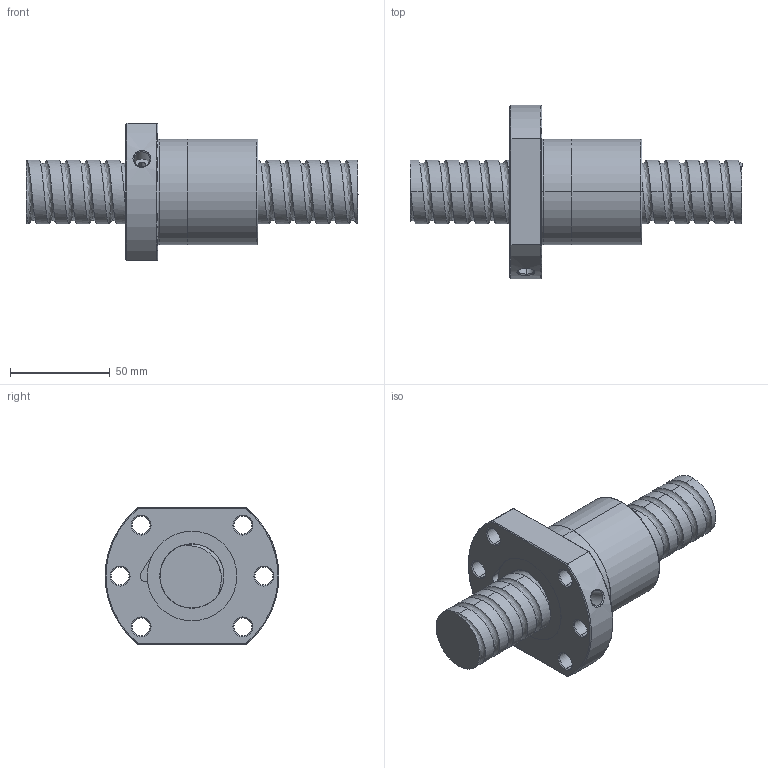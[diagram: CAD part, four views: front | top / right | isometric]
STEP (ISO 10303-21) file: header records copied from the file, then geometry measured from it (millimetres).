
FILE_DESCRIPTION (( 'STEP AP214' ), '1' );
FILE_NAME ('FSDC03210T4-C-C.STEP', '2010-06-25T11:43:37', ( 'XPAUTO' ), ( 'XPAUTO' ), 'SwSTEP 2.0', 'SolidWorks 2007', '' );
FILE_SCHEMA (( 'AUTOMOTIVE_DESIGN' ));
Length unit declared in the file: millimetre
Products named in the file (3): FSDC03210T4-C-C; FSDC03210T4-C-C.sldasm-Part-2_預設; FSDC03210T4-C-C.sldasm-Part-1_預設
Assembly tree (2 placements, depth 2):
  FSDC03210T4-C-C
    FSDC03210T4-C-C.sldasm-Part-2_預設
    FSDC03210T4-C-C.sldasm-Part-1_預設
Bounding box: 166 x 86.7 x 69 mm (x, y, z)
Volume: 259255.4 mm3; surface area: 51310.3 mm2
Topology: 2 solids, 2 shells, 131 faces, 327 edges, 205 vertices
Faces by surface type: cylinder 74, cone 24, plane 22, torus 6, bspline 5
Entity records: 25844 total; most frequent: CARTESIAN_POINT 22729, ORIENTED_EDGE 654, DIRECTION 601, EDGE_CURVE 327, AXIS2_PLACEMENT_3D 243, VERTEX_POINT 205, EDGE_LOOP 152, FACE_OUTER_BOUND 131
